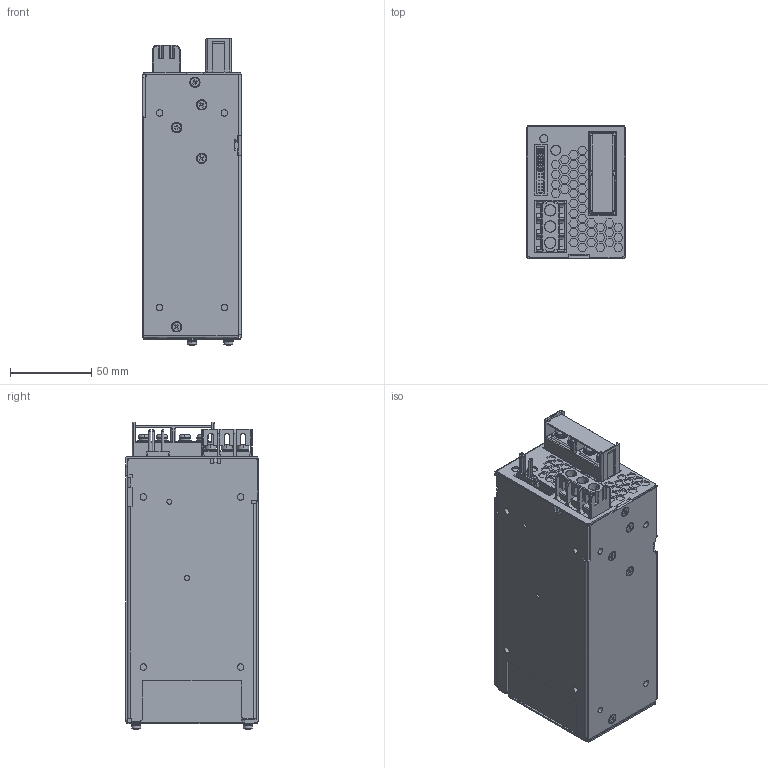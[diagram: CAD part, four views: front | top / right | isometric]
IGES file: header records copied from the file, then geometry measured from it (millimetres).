
Start section: SolidWorks IGES file using analytic representation for surfaces
Global section: file name: C:\HWS300_OUTLINE.IGS; native system: SolidWorks 2006 by SolidWorks Corporation; preprocessor: SolidWorks 2006 by SolidWorks Corporation; author: 3444matsunaga; date: 060915.163555; units: millimetre
Bounding box: 61 x 82 x 189.55 mm (x, y, z)
Surface area: 71770.9 mm2 (no closed solid volume)
Topology: 0 solids, 0 shells, 1744 faces, 16493 edges, 16489 vertices
Faces by surface type: bspline 1304, revolution 440
